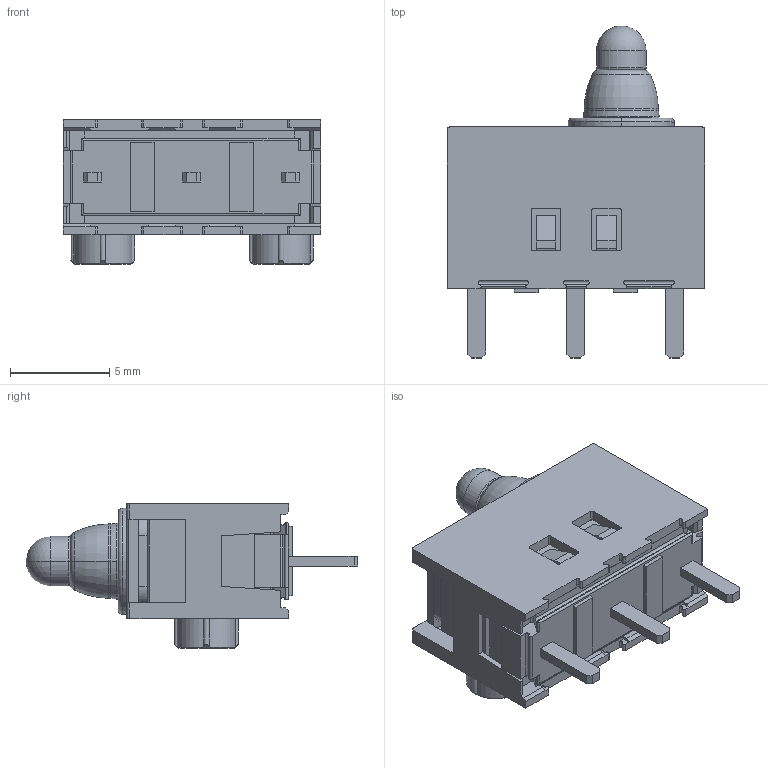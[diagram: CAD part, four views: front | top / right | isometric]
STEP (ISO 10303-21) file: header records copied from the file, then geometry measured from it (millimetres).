
FILE_DESCRIPTION (( 'STEP AP214' ), '1' );
FILE_NAME ('SPVQ380300.STEP', '2011-03-19T07:40:43', ( '' ), ( '' ), 'SwSTEP 2.0', 'SolidWorks 2007', '' );
FILE_SCHEMA (( 'AUTOMOTIVE_DESIGN' ));
Length unit declared in the file: millimetre
Products named in the file (1): SPVQ380300
Bounding box: 13 x 16.75 x 7.3 mm (x, y, z)
Volume: 620 mm3; surface area: 1052 mm2
Topology: 1 solids, 1 shells, 390 faces, 1091 edges, 706 vertices
Faces by surface type: plane 236, cylinder 126, torus 18, cone 8, sphere 2
Entity records: 16842 total; most frequent: CARTESIAN_POINT 2333, ORIENTED_EDGE 2174, DIRECTION 2102, EDGE_CURVE 1087, VECTOR 780, LINE 780, VERTEX_POINT 704, AXIS2_PLACEMENT_3D 661
